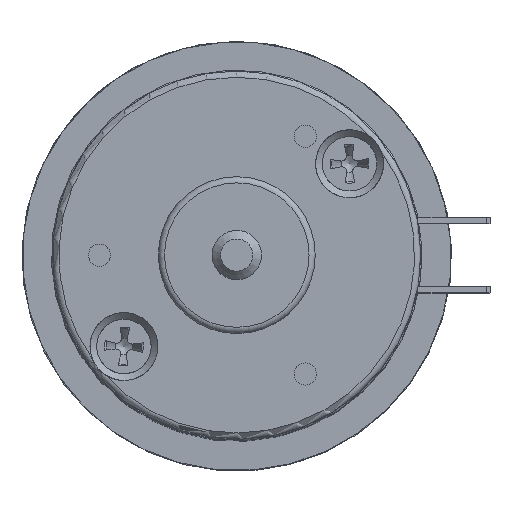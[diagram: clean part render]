
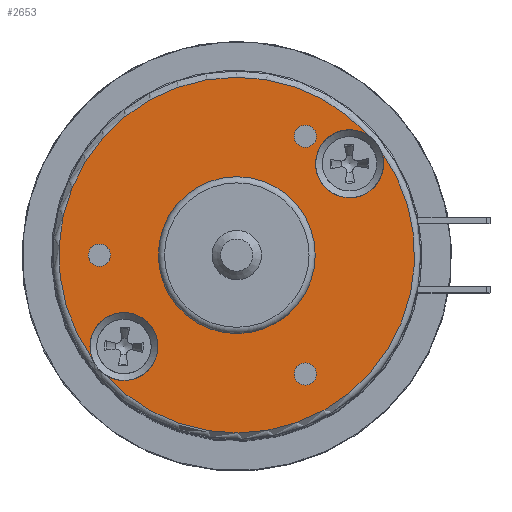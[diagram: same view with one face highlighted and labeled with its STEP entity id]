
A CAD part, top view. The second image highlights one B-rep face of the part: STEP entity #2653.
In plain terms, the highlighted planar face has unit normal (0, 0, 1).
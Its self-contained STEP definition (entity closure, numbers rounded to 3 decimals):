
#1980=CARTESIAN_POINT('',(0.,-6.35,76.7));
#1981=VERTEX_POINT('',#1980);
#1982=CARTESIAN_POINT('',(0.,0.,76.7));
#1983=DIRECTION('',(0.0,0.0,-1.0));
#1984=DIRECTION('',(0.0,1.0,0.0));
#1985=AXIS2_PLACEMENT_3D('',#1982,#1983,#1984);
#1986=CIRCLE('',#1985,6.35);
#1987=EDGE_CURVE('',#1981,#1981,#1986,.T.);
#2528=CARTESIAN_POINT('',(10.661,9.68,76.7));
#2529=VERTEX_POINT('',#2528);
#2530=CARTESIAN_POINT('',(11.685,8.416,76.7));
#2531=VERTEX_POINT('',#2530);
#2551=CARTESIAN_POINT('',(-10.661,-9.68,76.7));
#2552=VERTEX_POINT('',#2551);
#2553=CARTESIAN_POINT('',(0.,0.,76.7));
#2554=DIRECTION('',(0.0,0.0,-1.0));
#2555=DIRECTION('',(0.0,-1.0,0.0));
#2556=AXIS2_PLACEMENT_3D('',#2553,#2554,#2555);
#2557=CIRCLE('',#2556,14.4);
#2558=EDGE_CURVE('',#2531,#2552,#2557,.T.);
#2560=CARTESIAN_POINT('',(-11.685,-8.416,76.7));
#2561=VERTEX_POINT('',#2560);
#2581=CARTESIAN_POINT('',(0.,0.,76.7));
#2582=DIRECTION('',(0.0,0.0,-1.0));
#2583=DIRECTION('',(0.0,-1.0,0.0));
#2584=AXIS2_PLACEMENT_3D('',#2581,#2582,#2583);
#2585=CIRCLE('',#2584,14.4);
#2586=EDGE_CURVE('',#2561,#2529,#2585,.T.);
#2594=CARTESIAN_POINT('',(0.,0.,76.7));
#2595=DIRECTION('',(0.0,0.0,-1.0));
#2596=DIRECTION('',(0.0,1.0,0.0));
#2597=AXIS2_PLACEMENT_3D('',#2594,#2595,#2596);
#2598=PLANE('',#2597);
#2599=CARTESIAN_POINT('',(9.131,7.395,76.7));
#2600=DIRECTION('',(0.0,0.0,-1.0));
#2601=DIRECTION('',(0.0,-1.0,0.0));
#2602=AXIS2_PLACEMENT_3D('',#2599,#2600,#2601);
#2603=CIRCLE('',#2602,2.75);
#2604=EDGE_CURVE('',#2531,#2529,#2603,.T.);
#2605=ORIENTED_EDGE('',*,*,#2604,.T.);
#2606=ORIENTED_EDGE('',*,*,#2586,.F.);
#2607=CARTESIAN_POINT('',(-9.131,-7.395,76.7));
#2608=DIRECTION('',(0.0,0.0,-1.0));
#2609=DIRECTION('',(0.0,-1.0,0.0));
#2610=AXIS2_PLACEMENT_3D('',#2607,#2608,#2609);
#2611=CIRCLE('',#2610,2.75);
#2612=EDGE_CURVE('',#2561,#2552,#2611,.T.);
#2613=ORIENTED_EDGE('',*,*,#2612,.T.);
#2614=ORIENTED_EDGE('',*,*,#2558,.F.);
#2615=EDGE_LOOP('',(#2605,#2606,#2613,#2614));
#2616=FACE_OUTER_BOUND('',#2615,.T.);
#2617=CARTESIAN_POINT('',(-11.112,-0.9,76.7));
#2618=VERTEX_POINT('',#2617);
#2619=CARTESIAN_POINT('',(-11.112,0.,76.7));
#2620=DIRECTION('',(0.0,0.0,-1.0));
#2621=DIRECTION('',(0.0,-1.0,0.0));
#2622=AXIS2_PLACEMENT_3D('',#2619,#2620,#2621);
#2623=CIRCLE('',#2622,0.9);
#2624=EDGE_CURVE('',#2618,#2618,#2623,.T.);
#2625=ORIENTED_EDGE('',*,*,#2624,.T.);
#2626=EDGE_LOOP('',(#2625));
#2627=FACE_BOUND('',#2626,.T.);
#2628=CARTESIAN_POINT('',(5.556,8.724,76.7));
#2629=VERTEX_POINT('',#2628);
#2630=CARTESIAN_POINT('',(5.556,9.624,76.7));
#2631=DIRECTION('',(0.0,0.0,-1.0));
#2632=DIRECTION('',(0.0,-1.0,0.0));
#2633=AXIS2_PLACEMENT_3D('',#2630,#2631,#2632);
#2634=CIRCLE('',#2633,0.9);
#2635=EDGE_CURVE('',#2629,#2629,#2634,.T.);
#2636=ORIENTED_EDGE('',*,*,#2635,.T.);
#2637=EDGE_LOOP('',(#2636));
#2638=FACE_BOUND('',#2637,.T.);
#2639=CARTESIAN_POINT('',(5.556,-10.524,76.7));
#2640=VERTEX_POINT('',#2639);
#2641=CARTESIAN_POINT('',(5.556,-9.624,76.7));
#2642=DIRECTION('',(0.0,0.0,-1.0));
#2643=DIRECTION('',(0.0,-1.0,0.0));
#2644=AXIS2_PLACEMENT_3D('',#2641,#2642,#2643);
#2645=CIRCLE('',#2644,0.9);
#2646=EDGE_CURVE('',#2640,#2640,#2645,.T.);
#2647=ORIENTED_EDGE('',*,*,#2646,.T.);
#2648=EDGE_LOOP('',(#2647));
#2649=FACE_BOUND('',#2648,.T.);
#2650=ORIENTED_EDGE('',*,*,#1987,.T.);
#2651=EDGE_LOOP('',(#2650));
#2652=FACE_BOUND('',#2651,.T.);
#2653=ADVANCED_FACE('',(#2616,#2627,#2638,#2649,#2652),#2598,.F.);
